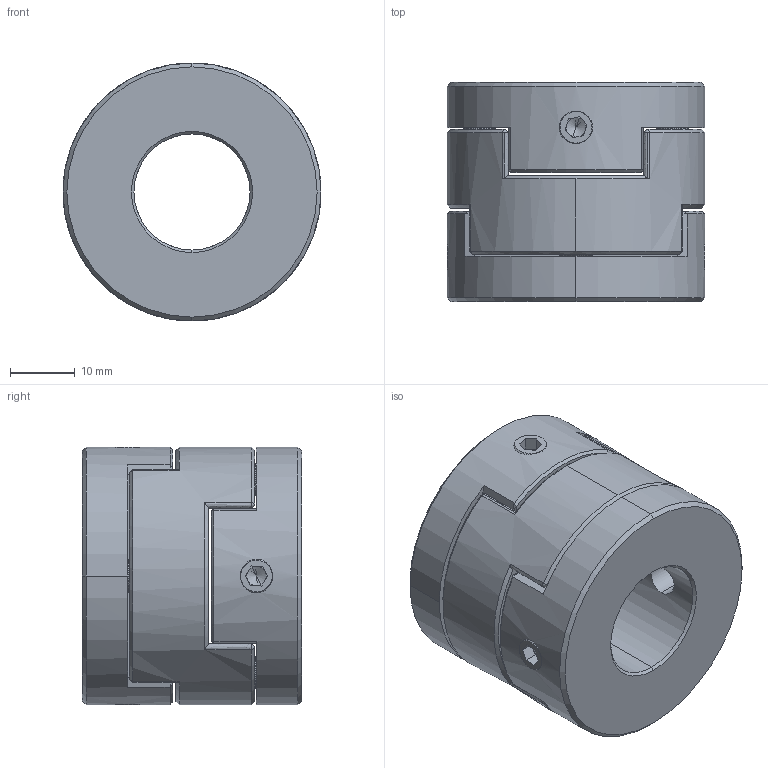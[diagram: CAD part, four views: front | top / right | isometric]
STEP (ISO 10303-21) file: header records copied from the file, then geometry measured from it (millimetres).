
FILE_DESCRIPTION (( 'STEP AP203' ), '1' );
FILE_NAME ('LZ-D-D40L35-18-18.STEP', '2021-10-30T05:24:47', ( '' ), ( '' ), 'SwSTEP 2.0', 'SolidWorks 2018', '' );
FILE_SCHEMA (( 'CONFIG_CONTROL_DESIGN' ));
Length unit declared in the file: millimetre
Products named in the file (1): LZ-D-D40L35-18-18
Bounding box: 40 x 34 x 40 mm (x, y, z)
Volume: 32424.4 mm3; surface area: 12250.2 mm2
Topology: 1 solids, 1 shells, 217 faces, 542 edges, 327 vertices
Faces by surface type: plane 88, bspline 55, cone 48, cylinder 26
Entity records: 7712 total; most frequent: CARTESIAN_POINT 2989, ORIENTED_EDGE 1068, DIRECTION 796, EDGE_CURVE 534, VERTEX_POINT 327, AXIS2_PLACEMENT_3D 289, EDGE_LOOP 243, LINE 218
